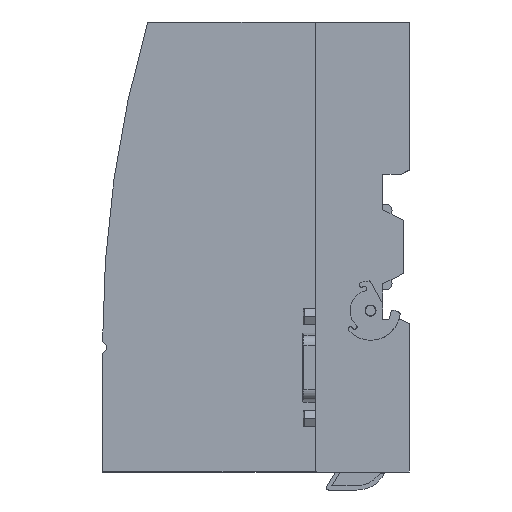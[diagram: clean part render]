
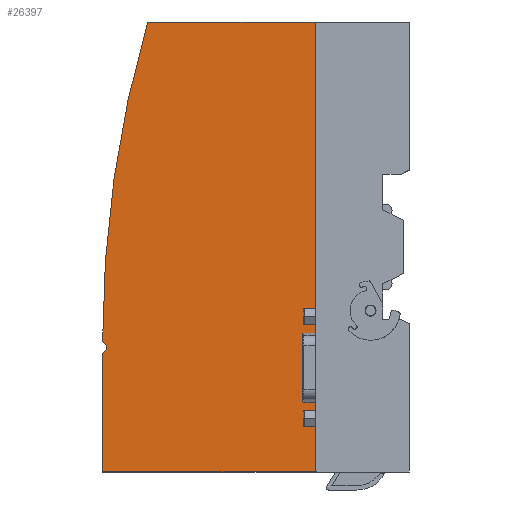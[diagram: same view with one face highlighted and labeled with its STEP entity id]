
A CAD part, left-side view. The second image highlights one B-rep face of the part: STEP entity #26397.
In plain terms, the highlighted planar face has unit normal (-1, 0, 0).
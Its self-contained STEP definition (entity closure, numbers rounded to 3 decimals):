
#393 = VERTEX_POINT ( 'NONE', #10558 ) ;
#705 = CARTESIAN_POINT ( 'NONE',  ( 57.765, 23., -27.497 ) ) ;
#708 = ORIENTED_EDGE ( 'NONE', *, *, #19898, .F. ) ;
#1293 = VECTOR ( 'NONE', #12356, 1000. ) ;
#1599 = VERTEX_POINT ( 'NONE', #6590 ) ;
#1888 = LINE ( 'NONE', #4033, #1293 ) ;
#2130 = ORIENTED_EDGE ( 'NONE', *, *, #20585, .F. ) ;
#2535 = CARTESIAN_POINT ( 'NONE',  ( 57.765, -207.045, -105.497 ) ) ;
#2821 = EDGE_CURVE ( 'NONE', #3776, #393, #7257, .T. ) ;
#3311 = DIRECTION ( 'NONE',  ( 0., 0., -1. ) ) ;
#3776 = VERTEX_POINT ( 'NONE', #705 ) ;
#3911 = DIRECTION ( 'NONE',  ( 0., 0., -1. ) ) ;
#4033 = CARTESIAN_POINT ( 'NONE',  ( 57.765, 90.249, -90.249 ) ) ;
#4528 = FACE_OUTER_BOUND ( 'NONE', #11777, .T. ) ;
#4731 = CARTESIAN_POINT ( 'NONE',  ( 57.765, 75., -108.497 ) ) ;
#5136 = CARTESIAN_POINT ( 'NONE',  ( 57.765, 23., -137.497 ) ) ;
#5417 = CARTESIAN_POINT ( 'NONE',  ( 57.765, 75., -105.497 ) ) ;
#5835 = LINE ( 'NONE', #8375, #10413 ) ;
#5988 = VECTOR ( 'NONE', #6824, 1000. ) ;
#6052 = VERTEX_POINT ( 'NONE', #4731 ) ;
#6438 = DIRECTION ( 'NONE',  ( 1., 0., 0. ) ) ;
#6578 = EDGE_CURVE ( 'NONE', #6052, #15487, #15552, .T. ) ;
#6590 = CARTESIAN_POINT ( 'NONE',  ( 57.765, 75., -137.497 ) ) ;
#6699 = DIRECTION ( 'NONE',  ( 0., 0., 1. ) ) ;
#6824 = DIRECTION ( 'NONE',  ( 0., 0., -1. ) ) ;
#7115 = DIRECTION ( 'NONE',  ( 0., -0.707, 0.707 ) ) ;
#7257 = LINE ( 'NONE', #19878, #16388 ) ;
#7656 = DIRECTION ( 'NONE',  ( 0., 1., 0. ) ) ;
#8375 = CARTESIAN_POINT ( 'NONE',  ( 57.765, 74., 0. ) ) ;
#9430 = ORIENTED_EDGE ( 'NONE', *, *, #16548, .T. ) ;
#9765 = VERTEX_POINT ( 'NONE', #12259 ) ;
#10413 = VECTOR ( 'NONE', #16163, 1000. ) ;
#10558 = CARTESIAN_POINT ( 'NONE',  ( 57.765, 64., -27.497 ) ) ;
#10695 = CARTESIAN_POINT ( 'NONE',  ( 57.765, 23., -137.497 ) ) ;
#11777 = EDGE_LOOP ( 'NONE', ( #708, #12441, #9430, #12037, #20045, #24988, #2130, #25907 ) ) ;
#12037 = ORIENTED_EDGE ( 'NONE', *, *, #19227, .F. ) ;
#12151 = VERTEX_POINT ( 'NONE', #19440 ) ;
#12259 = CARTESIAN_POINT ( 'NONE',  ( 57.765, 23., -137.497 ) ) ;
#12356 = DIRECTION ( 'NONE',  ( 0., 0.707, 0.707 ) ) ;
#12441 = ORIENTED_EDGE ( 'NONE', *, *, #6578, .F. ) ;
#12716 = PLANE ( 'NONE',  #21927 ) ;
#13650 = AXIS2_PLACEMENT_3D ( 'NONE', #2535, #6438, #6699 ) ;
#14109 = CARTESIAN_POINT ( 'NONE',  ( 57.765, 75., -137.497 ) ) ;
#15177 = VECTOR ( 'NONE', #21508, 1000. ) ;
#15484 = VECTOR ( 'NONE', #7115, 1000. ) ;
#15487 = VERTEX_POINT ( 'NONE', #20253 ) ;
#15552 = LINE ( 'NONE', #25637, #15484 ) ;
#16163 = DIRECTION ( 'NONE',  ( 0., 0., 1. ) ) ;
#16388 = VECTOR ( 'NONE', #7656, 1000. ) ;
#16548 = EDGE_CURVE ( 'NONE', #6052, #1599, #22303, .T. ) ;
#18889 = DIRECTION ( 'NONE',  ( 1., 0., 0. ) ) ;
#19227 = EDGE_CURVE ( 'NONE', #9765, #1599, #23527, .T. ) ;
#19440 = CARTESIAN_POINT ( 'NONE',  ( 57.765, 74., -106.497 ) ) ;
#19660 = CIRCLE ( 'NONE', #13650, 282.045 ) ;
#19878 = CARTESIAN_POINT ( 'NONE',  ( 57.765, 23., -27.497 ) ) ;
#19898 = EDGE_CURVE ( 'NONE', #15487, #12151, #5835, .T. ) ;
#20045 = ORIENTED_EDGE ( 'NONE', *, *, #21768, .F. ) ;
#20253 = CARTESIAN_POINT ( 'NONE',  ( 57.765, 74., -107.497 ) ) ;
#20585 = EDGE_CURVE ( 'NONE', #25721, #393, #19660, .T. ) ;
#21508 = DIRECTION ( 'NONE',  ( 0., 1., 0. ) ) ;
#21768 = EDGE_CURVE ( 'NONE', #3776, #9765, #22444, .T. ) ;
#21927 = AXIS2_PLACEMENT_3D ( 'NONE', #10695, #18889, #3311 ) ;
#22303 = LINE ( 'NONE', #14109, #24091 ) ;
#22444 = LINE ( 'NONE', #25214, #5988 ) ;
#23527 = LINE ( 'NONE', #5136, #15177 ) ;
#24091 = VECTOR ( 'NONE', #3911, 1000. ) ;
#24237 = EDGE_CURVE ( 'NONE', #12151, #25721, #1888, .T. ) ;
#24988 = ORIENTED_EDGE ( 'NONE', *, *, #2821, .T. ) ;
#25214 = CARTESIAN_POINT ( 'NONE',  ( 57.765, 23., -137.497 ) ) ;
#25637 = CARTESIAN_POINT ( 'NONE',  ( 57.765, -16.749, -16.749 ) ) ;
#25721 = VERTEX_POINT ( 'NONE', #5417 ) ;
#25907 = ORIENTED_EDGE ( 'NONE', *, *, #24237, .F. ) ;
#26397 = ADVANCED_FACE ( 'NONE', ( #4528 ), #12716, .F. ) ;
